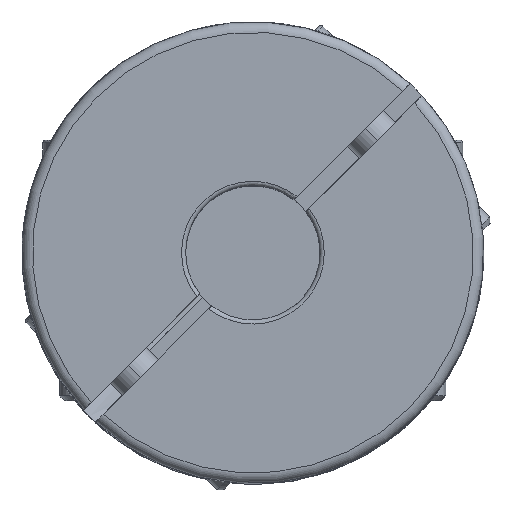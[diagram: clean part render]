
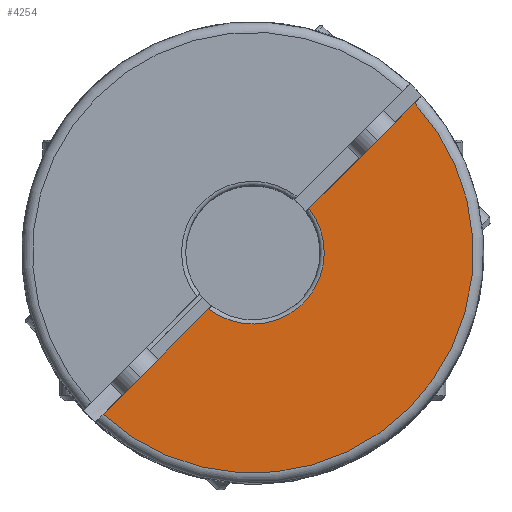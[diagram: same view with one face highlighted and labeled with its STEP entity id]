
A CAD part, top view. The second image highlights one B-rep face of the part: STEP entity #4254.
In plain terms, the highlighted planar face has unit normal (0, 0, 1).
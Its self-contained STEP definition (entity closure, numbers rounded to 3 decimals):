
#48 = EDGE_CURVE ( 'NONE', #20971, #9348, #9482, .T. ) ;
#1003 = CARTESIAN_POINT ( 'NONE',  ( 7.797, 7.257, 72.552 ) ) ;
#1273 = DIRECTION ( 'NONE',  ( -0.707, -0.707, 0. ) ) ;
#1639 = ORIENTED_EDGE ( 'NONE', *, *, #20219, .F. ) ;
#1724 = DIRECTION ( 'NONE',  ( 0., 0., -1. ) ) ;
#3416 = EDGE_CURVE ( 'NONE', #20971, #8485, #24676, .T. ) ;
#3845 = VECTOR ( 'NONE', #29847, 1000. ) ;
#3865 = AXIS2_PLACEMENT_3D ( 'NONE', #29849, #15561, #1273 ) ;
#4254 = ADVANCED_FACE ( 'NONE', ( #30226 ), #15378, .F. ) ;
#4309 = VERTEX_POINT ( 'NONE', #17889 ) ;
#4391 = AXIS2_PLACEMENT_3D ( 'NONE', #16015, #1724, #18424 ) ;
#5897 = DIRECTION ( 'NONE',  ( 0., 0., -1. ) ) ;
#6402 = ORIENTED_EDGE ( 'NONE', *, *, #3416, .T. ) ;
#8062 = EDGE_LOOP ( 'NONE', ( #1639, #17875, #26385, #6402 ) ) ;
#8485 = VERTEX_POINT ( 'NONE', #14152 ) ;
#9348 = VERTEX_POINT ( 'NONE', #22819 ) ;
#9482 = LINE ( 'NONE', #13159, #3845 ) ;
#9753 = LINE ( 'NONE', #28380, #16812 ) ;
#13159 = CARTESIAN_POINT ( 'NONE',  ( -17.618, -18.157, 72.552 ) ) ;
#13954 = AXIS2_PLACEMENT_3D ( 'NONE', #27292, #5897, #22559 ) ;
#14152 = CARTESIAN_POINT ( 'NONE',  ( -4.141, -4.68, 72.552 ) ) ;
#15378 = PLANE ( 'NONE',  #13954 ) ;
#15561 = DIRECTION ( 'NONE',  ( 0., 0., 1. ) ) ;
#16015 = CARTESIAN_POINT ( 'NONE',  ( 1.121, 1.995, 72.552 ) ) ;
#16364 = DIRECTION ( 'NONE',  ( 0.707, 0.707, 0. ) ) ;
#16812 = VECTOR ( 'NONE', #16364, 1000. ) ;
#17875 = ORIENTED_EDGE ( 'NONE', *, *, #25323, .T. ) ;
#17889 = CARTESIAN_POINT ( 'NONE',  ( -16.72, -17.26, 72.552 ) ) ;
#18424 = DIRECTION ( 'NONE',  ( -0.707, -0.707, 0. ) ) ;
#20219 = EDGE_CURVE ( 'NONE', #4309, #8485, #9753, .T. ) ;
#20971 = VERTEX_POINT ( 'NONE', #1003 ) ;
#22559 = DIRECTION ( 'NONE',  ( -0.707, -0.707, 0. ) ) ;
#22819 = CARTESIAN_POINT ( 'NONE',  ( 20.376, 19.836, 72.552 ) ) ;
#24676 = CIRCLE ( 'NONE', #4391, 8.5 ) ;
#25323 = EDGE_CURVE ( 'NONE', #4309, #9348, #27377, .T. ) ;
#26385 = ORIENTED_EDGE ( 'NONE', *, *, #48, .F. ) ;
#27292 = CARTESIAN_POINT ( 'NONE',  ( 1.121, 1.995, 72.552 ) ) ;
#27377 = CIRCLE ( 'NONE', #3865, 26.25 ) ;
#28380 = CARTESIAN_POINT ( 'NONE',  ( -17.618, -18.157, 72.552 ) ) ;
#29847 = DIRECTION ( 'NONE',  ( 0.707, 0.707, 0. ) ) ;
#29849 = CARTESIAN_POINT ( 'NONE',  ( 1.121, 1.995, 72.552 ) ) ;
#30226 = FACE_OUTER_BOUND ( 'NONE', #8062, .T. ) ;
